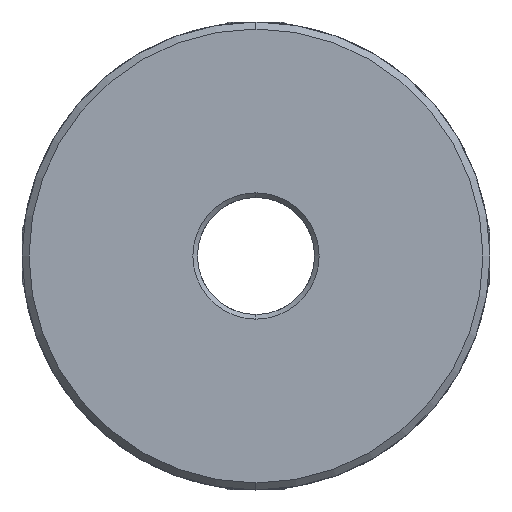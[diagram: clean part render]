
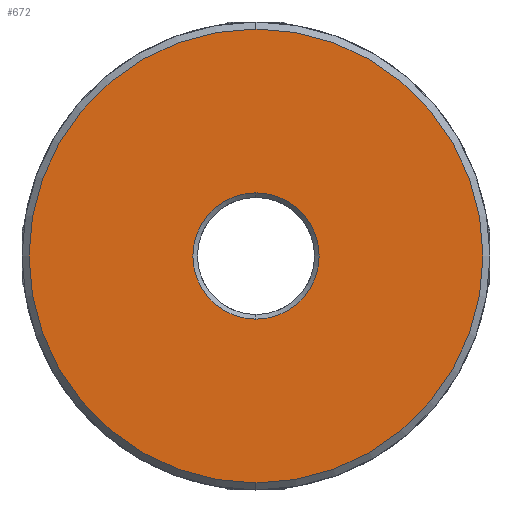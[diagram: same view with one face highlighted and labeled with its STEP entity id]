
A CAD part, front view. The second image highlights one B-rep face of the part: STEP entity #672.
In plain terms, the highlighted planar face has unit normal (0, -1, 0).
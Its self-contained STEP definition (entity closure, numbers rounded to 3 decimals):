
#9 = DIRECTION ( 'NONE',  ( 0., 1., 0. ) ) ;
#139 = DIRECTION ( 'NONE',  ( 0., 0., 1. ) ) ;
#159 = EDGE_LOOP ( 'NONE', ( #7416, #743 ) ) ;
#376 = EDGE_CURVE ( 'NONE', #5780, #6145, #4135, .T. ) ;
#404 = ORIENTED_EDGE ( 'NONE', *, *, #376, .T. ) ;
#608 = CARTESIAN_POINT ( 'NONE',  ( 24.74, 0., -50. ) ) ;
#672 = ADVANCED_FACE ( 'NONE', ( #6886, #2751 ), #2418, .F. ) ;
#743 = ORIENTED_EDGE ( 'NONE', *, *, #5196, .T. ) ;
#1215 = AXIS2_PLACEMENT_3D ( 'NONE', #6813, #9, #5378 ) ;
#1390 = EDGE_LOOP ( 'NONE', ( #5252, #404 ) ) ;
#1705 = CARTESIAN_POINT ( 'NONE',  ( 0., 0., 5.4 ) ) ;
#2181 = VERTEX_POINT ( 'NONE', #3721 ) ;
#2295 = CIRCLE ( 'NONE', #2711, 5.4 ) ;
#2418 = PLANE ( 'NONE',  #3211 ) ;
#2536 = CARTESIAN_POINT ( 'NONE',  ( 0., 0., 0. ) ) ;
#2645 = CARTESIAN_POINT ( 'NONE',  ( 0., 0., 0. ) ) ;
#2711 = AXIS2_PLACEMENT_3D ( 'NONE', #6481, #2870, #7089 ) ;
#2751 = FACE_OUTER_BOUND ( 'NONE', #159, .T. ) ;
#2870 = DIRECTION ( 'NONE',  ( 0., 1., 0. ) ) ;
#3140 = DIRECTION ( 'NONE',  ( 0., -1., 0. ) ) ;
#3211 = AXIS2_PLACEMENT_3D ( 'NONE', #608, #5322, #6601 ) ;
#3341 = VERTEX_POINT ( 'NONE', #3687 ) ;
#3687 = CARTESIAN_POINT ( 'NONE',  ( 0., 0., 19.4 ) ) ;
#3721 = CARTESIAN_POINT ( 'NONE',  ( 0., 0., -19.4 ) ) ;
#4135 = CIRCLE ( 'NONE', #1215, 5.4 ) ;
#4575 = CARTESIAN_POINT ( 'NONE',  ( 0., 0., -5.4 ) ) ;
#4596 = DIRECTION ( 'NONE',  ( 0., 0., 1. ) ) ;
#4859 = CIRCLE ( 'NONE', #6045, 19.4 ) ;
#5196 = EDGE_CURVE ( 'NONE', #2181, #3341, #5605, .T. ) ;
#5252 = ORIENTED_EDGE ( 'NONE', *, *, #7682, .T. ) ;
#5322 = DIRECTION ( 'NONE',  ( 0., 1., 0. ) ) ;
#5378 = DIRECTION ( 'NONE',  ( 0., 0., 1. ) ) ;
#5480 = EDGE_CURVE ( 'NONE', #3341, #2181, #4859, .T. ) ;
#5605 = CIRCLE ( 'NONE', #5622, 19.4 ) ;
#5622 = AXIS2_PLACEMENT_3D ( 'NONE', #2645, #6845, #4596 ) ;
#5780 = VERTEX_POINT ( 'NONE', #1705 ) ;
#6045 = AXIS2_PLACEMENT_3D ( 'NONE', #2536, #3140, #139 ) ;
#6145 = VERTEX_POINT ( 'NONE', #4575 ) ;
#6481 = CARTESIAN_POINT ( 'NONE',  ( 0., 0., 0. ) ) ;
#6601 = DIRECTION ( 'NONE',  ( 0., 0., 1. ) ) ;
#6813 = CARTESIAN_POINT ( 'NONE',  ( 0., 0., 0. ) ) ;
#6845 = DIRECTION ( 'NONE',  ( 0., -1., 0. ) ) ;
#6886 = FACE_BOUND ( 'NONE', #1390, .T. ) ;
#7089 = DIRECTION ( 'NONE',  ( 0., 0., 1. ) ) ;
#7416 = ORIENTED_EDGE ( 'NONE', *, *, #5480, .T. ) ;
#7682 = EDGE_CURVE ( 'NONE', #6145, #5780, #2295, .T. ) ;
